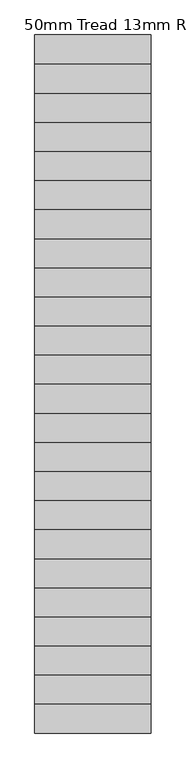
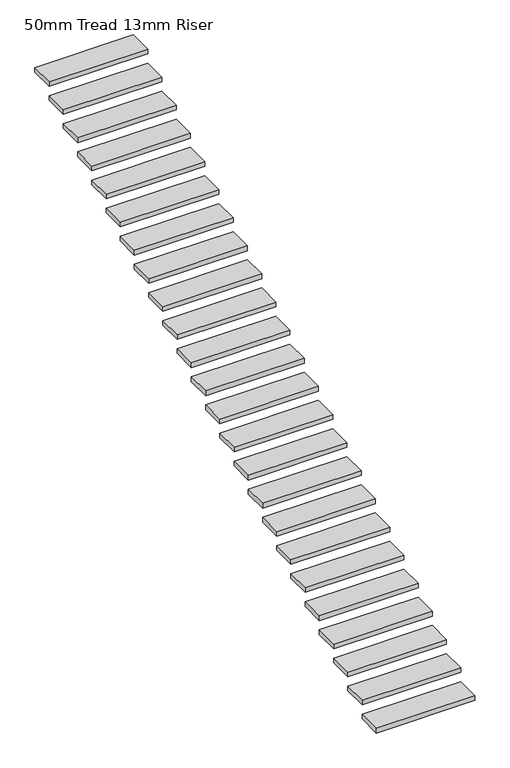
"""IFC4 building model written with IfcOpenShell, lengths in millimetres: stair flight geometry, 50mm Tread 13mm Riser."""

from ifc_helpers import new_model, si_unit, frame, origin, place, context, project, spatial, polyline, outline, extrude, source, transform, mapped, element, save


def stair_flight_50mm_tread_13mm_riser_10520530(model_context):
    return source(origin(), model_context, "Body", "SweptSolid", [
        extrude(outline(polyline([(19081.9375783, -12104.2233484), (20081.9375783, -12104.2233484), (20081.9375783, -12354.2233484), (19081.9375783, -12354.2233484), (19081.9375783, -12104.2233484)])), frame((0.0, 0.0, 100.0), z_axis=(0.0, 0.0, 1.0), x_axis=(1.0, 0.0, 0.0)), (0.0, 0.0, 1.0), 50.0),
        extrude(outline(polyline([(19081.9375783, -11854.2233484), (20081.9375783, -11854.2233484), (20081.9375783, -12104.2233484), (19081.9375783, -12104.2233484), (19081.9375783, -11854.2233484)])), frame((0.0, 0.0, 250.0), z_axis=(0.0, 0.0, 1.0), x_axis=(1.0, 0.0, 0.0)), (0.0, 0.0, 1.0), 50.0),
        extrude(outline(polyline([(19081.9375783, -11604.2233484), (20081.9375783, -11604.2233484), (20081.9375783, -11854.2233484), (19081.9375783, -11854.2233484), (19081.9375783, -11604.2233484)])), frame((0.0, 0.0, 400.0), z_axis=(0.0, 0.0, 1.0), x_axis=(1.0, 0.0, 0.0)), (0.0, 0.0, 1.0), 50.0),
        extrude(outline(polyline([(19081.9375783, -11354.2233484), (20081.9375783, -11354.2233484), (20081.9375783, -11604.2233484), (19081.9375783, -11604.2233484), (19081.9375783, -11354.2233484)])), frame((0.0, 0.0, 550.0), z_axis=(0.0, 0.0, 1.0), x_axis=(1.0, 0.0, 0.0)), (0.0, 0.0, 1.0), 50.0),
        extrude(outline(polyline([(19081.9375783, -11104.2233484), (20081.9375783, -11104.2233484), (20081.9375783, -11354.2233484), (19081.9375783, -11354.2233484), (19081.9375783, -11104.2233484)])), frame((0.0, 0.0, 700.0), z_axis=(0.0, 0.0, 1.0), x_axis=(1.0, 0.0, 0.0)), (0.0, 0.0, 1.0), 50.0),
        extrude(outline(polyline([(19081.9375783, -10854.2233484), (20081.9375783, -10854.2233484), (20081.9375783, -11104.2233484), (19081.9375783, -11104.2233484), (19081.9375783, -10854.2233484)])), frame((0.0, 0.0, 850.0), z_axis=(0.0, 0.0, 1.0), x_axis=(1.0, 0.0, 0.0)), (0.0, 0.0, 1.0), 50.0),
        extrude(outline(polyline([(19081.9375783, -10604.2233484), (20081.9375783, -10604.2233484), (20081.9375783, -10854.2233484), (19081.9375783, -10854.2233484), (19081.9375783, -10604.2233484)])), frame((0.0, 0.0, 1000.0), z_axis=(0.0, 0.0, 1.0), x_axis=(1.0, 0.0, 0.0)), (0.0, 0.0, 1.0), 50.0),
        extrude(outline(polyline([(19081.9375783, -10354.2233484), (20081.9375783, -10354.2233484), (20081.9375783, -10604.2233484), (19081.9375783, -10604.2233484), (19081.9375783, -10354.2233484)])), frame((0.0, 0.0, 1150.0), z_axis=(0.0, 0.0, 1.0), x_axis=(1.0, 0.0, 0.0)), (0.0, 0.0, 1.0), 50.0),
        extrude(outline(polyline([(19081.9375783, -10104.2233484), (20081.9375783, -10104.2233484), (20081.9375783, -10354.2233484), (19081.9375783, -10354.2233484), (19081.9375783, -10104.2233484)])), frame((0.0, 0.0, 1300.0), z_axis=(0.0, 0.0, 1.0), x_axis=(1.0, 0.0, 0.0)), (0.0, 0.0, 1.0), 50.0),
        extrude(outline(polyline([(19081.9375783, -9854.2233484), (20081.9375783, -9854.2233484), (20081.9375783, -10104.2233484), (19081.9375783, -10104.2233484), (19081.9375783, -9854.2233484)])), frame((0.0, 0.0, 1450.0), z_axis=(0.0, 0.0, 1.0), x_axis=(1.0, 0.0, 0.0)), (0.0, 0.0, 1.0), 50.0),
        extrude(outline(polyline([(19081.9375783, -9604.2233484), (20081.9375783, -9604.2233484), (20081.9375783, -9854.2233484), (19081.9375783, -9854.2233484), (19081.9375783, -9604.2233484)])), frame((0.0, 0.0, 1600.0), z_axis=(0.0, 0.0, 1.0), x_axis=(1.0, 0.0, 0.0)), (0.0, 0.0, 1.0), 50.0),
        extrude(outline(polyline([(19081.9375783, -9354.2233484), (20081.9375783, -9354.2233484), (20081.9375783, -9604.2233484), (19081.9375783, -9604.2233484), (19081.9375783, -9354.2233484)])), frame((0.0, 0.0, 1750.0), z_axis=(0.0, 0.0, 1.0), x_axis=(1.0, 0.0, 0.0)), (0.0, 0.0, 1.0), 50.0),
        extrude(outline(polyline([(19081.9375783, -9104.2233484), (20081.9375783, -9104.2233484), (20081.9375783, -9354.2233484), (19081.9375783, -9354.2233484), (19081.9375783, -9104.2233484)])), frame((0.0, 0.0, 1900.0), z_axis=(0.0, 0.0, 1.0), x_axis=(1.0, 0.0, 0.0)), (0.0, 0.0, 1.0), 50.0),
        extrude(outline(polyline([(19081.9375783, -8854.2233484), (20081.9375783, -8854.2233484), (20081.9375783, -9104.2233484), (19081.9375783, -9104.2233484), (19081.9375783, -8854.2233484)])), frame((0.0, 0.0, 2050.0), z_axis=(0.0, 0.0, 1.0), x_axis=(1.0, 0.0, 0.0)), (0.0, 0.0, 1.0), 50.0),
        extrude(outline(polyline([(19081.9375783, -8604.2233484), (20081.9375783, -8604.2233484), (20081.9375783, -8854.2233484), (19081.9375783, -8854.2233484), (19081.9375783, -8604.2233484)])), frame((0.0, 0.0, 2200.0), z_axis=(0.0, 0.0, 1.0), x_axis=(1.0, 0.0, 0.0)), (0.0, 0.0, 1.0), 50.0),
        extrude(outline(polyline([(19081.9375783, -8354.2233484), (20081.9375783, -8354.2233484), (20081.9375783, -8604.2233484), (19081.9375783, -8604.2233484), (19081.9375783, -8354.2233484)])), frame((0.0, 0.0, 2350.0), z_axis=(0.0, 0.0, 1.0), x_axis=(1.0, 0.0, 0.0)), (0.0, 0.0, 1.0), 50.0),
        extrude(outline(polyline([(19081.9375783, -8104.2233484), (20081.9375783, -8104.2233484), (20081.9375783, -8354.2233484), (19081.9375783, -8354.2233484), (19081.9375783, -8104.2233484)])), frame((0.0, 0.0, 2500.0), z_axis=(0.0, 0.0, 1.0), x_axis=(1.0, 0.0, 0.0)), (0.0, 0.0, 1.0), 50.0),
        extrude(outline(polyline([(19081.9375783, -7854.2233484), (20081.9375783, -7854.2233484), (20081.9375783, -8104.2233484), (19081.9375783, -8104.2233484), (19081.9375783, -7854.2233484)])), frame((0.0, 0.0, 2650.0), z_axis=(0.0, 0.0, 1.0), x_axis=(1.0, 0.0, 0.0)), (0.0, 0.0, 1.0), 50.0),
        extrude(outline(polyline([(19081.9375783, -7604.2233484), (20081.9375783, -7604.2233484), (20081.9375783, -7854.2233484), (19081.9375783, -7854.2233484), (19081.9375783, -7604.2233484)])), frame((0.0, 0.0, 2800.0), z_axis=(0.0, 0.0, 1.0), x_axis=(1.0, 0.0, 0.0)), (0.0, 0.0, 1.0), 50.0),
        extrude(outline(polyline([(19081.9375783, -7354.2233484), (20081.9375783, -7354.2233484), (20081.9375783, -7604.2233484), (19081.9375783, -7604.2233484), (19081.9375783, -7354.2233484)])), frame((0.0, 0.0, 2950.0), z_axis=(0.0, 0.0, 1.0), x_axis=(1.0, 0.0, 0.0)), (0.0, 0.0, 1.0), 50.0),
        extrude(outline(polyline([(19081.9375783, -7104.2233484), (20081.9375783, -7104.2233484), (20081.9375783, -7354.2233484), (19081.9375783, -7354.2233484), (19081.9375783, -7104.2233484)])), frame((0.0, 0.0, 3100.0), z_axis=(0.0, 0.0, 1.0), x_axis=(1.0, 0.0, 0.0)), (0.0, 0.0, 1.0), 50.0),
        extrude(outline(polyline([(19081.9375783, -6854.2233484), (20081.9375783, -6854.2233484), (20081.9375783, -7104.2233484), (19081.9375783, -7104.2233484), (19081.9375783, -6854.2233484)])), frame((0.0, 0.0, 3250.0), z_axis=(0.0, 0.0, 1.0), x_axis=(1.0, 0.0, 0.0)), (0.0, 0.0, 1.0), 50.0),
        extrude(outline(polyline([(19081.9375783, -6604.2233484), (20081.9375783, -6604.2233484), (20081.9375783, -6854.2233484), (19081.9375783, -6854.2233484), (19081.9375783, -6604.2233484)])), frame((0.0, 0.0, 3400.0), z_axis=(0.0, 0.0, 1.0), x_axis=(1.0, 0.0, 0.0)), (0.0, 0.0, 1.0), 50.0),
        extrude(outline(polyline([(19081.9375783, -6354.2233484), (20081.9375783, -6354.2233484), (20081.9375783, -6604.2233484), (19081.9375783, -6604.2233484), (19081.9375783, -6354.2233484)])), frame((0.0, 0.0, 3550.0), z_axis=(0.0, 0.0, 1.0), x_axis=(1.0, 0.0, 0.0)), (0.0, 0.0, 1.0), 50.0),
    ])


if __name__ == "__main__":
    model = new_model("IFC4")
    model_context = context("Model", 3, world=origin())
    ifc_project = project(units=[si_unit("LENGTHUNIT", "METRE", prefix="MILLI")], contexts=[model_context])
    site = spatial("IfcSite", under=ifc_project)
    building = spatial("IfcBuilding", under=site)
    placement = place(None, origin())
    stair_flight_50mm_tread_13mm_riser_shape = stair_flight_50mm_tread_13mm_riser_10520530(model_context)
    element("IfcStairFlight", 1, ObjectType="50mm Tread 13mm Riser", at=placement, inside=building, context=model_context, shape_type="MappedRepresentation", body=[
        mapped(stair_flight_50mm_tread_13mm_riser_shape, transform((0.0, 0.0, 0.0), x_axis=(1.0, 0.0, 0.0), y_axis=(0.0, 1.0, 0.0), z_axis=(0.0, 0.0, 1.0))),
    ])
    save(model, "model.ifc")
